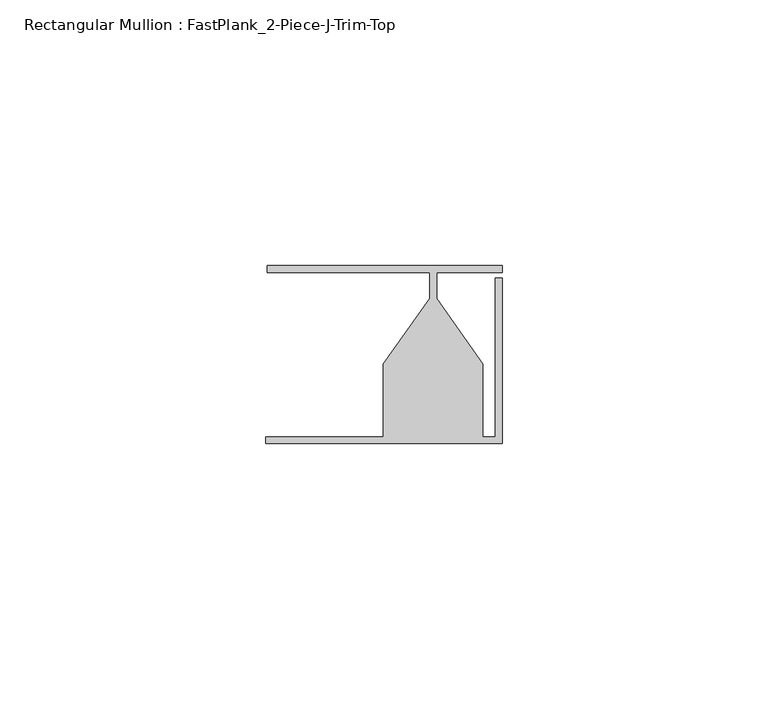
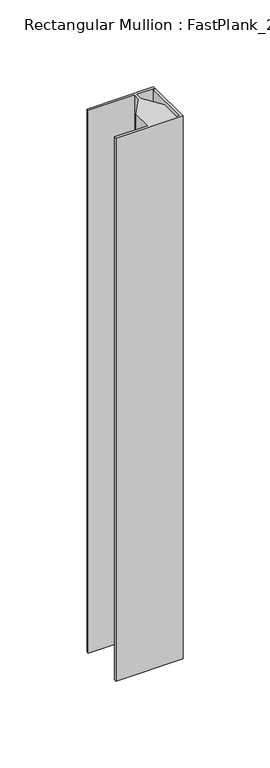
"""IFC4 building model written with IfcOpenShell, lengths in millimetres: member geometry, Rectangular Mullion : FastPlank_2-Piece-J-Trim-Top."""

from ifc_helpers import new_model, si_unit, frame, origin, place, context, project, spatial, polyline, outline, extrude, source, transform, mapped, element, save


def rectangular_mullion_fastplank_2_piece_j_trim_top_f27fafb0(model_context):
    return source(origin(), model_context, "Body", "SweptSolid", [
        extrude(outline(polyline([(0.0, 11.8625052), (0.0, 10.5618154), (-12.3176464, 10.5618154), (-12.3176464, 5.7038113), (-3.6053348, -6.6543757), (-3.6053348, -20.3381228), (-1.2999974, -20.3381228), (-1.2999974, 9.5619969), (0.0, 9.5619969), (0.0, -21.6381202), (-44.4475015, -21.6381202), (-44.4475015, -20.3381228), (-22.3299553, -20.3381228), (-22.3299553, -6.6543757), (-13.6176438, 5.7038113), (-13.6176438, 10.5618154), (-44.2023711, 10.5618154), (-44.2023711, 11.8625052), (0.0, 11.8625052)])), frame((0.0, 0.0, -381.0), z_axis=(0.0, 0.0, 1.0), x_axis=(1.0, 0.0, 0.0)), (0.0, 0.0, 1.0), 381.0),
    ])


if __name__ == "__main__":
    model = new_model("IFC4")
    model_context = context("Model", 3, world=origin())
    ifc_project = project(units=[si_unit("LENGTHUNIT", "METRE", prefix="MILLI")], contexts=[model_context])
    site = spatial("IfcSite", under=ifc_project)
    building = spatial("IfcBuilding", under=site)
    placement = place(None, origin())
    rectangular_mullion_fastplank_2_piece_j_trim_top_shape = rectangular_mullion_fastplank_2_piece_j_trim_top_f27fafb0(model_context)
    element("IfcMember", 1, ObjectType="Rectangular Mullion : FastPlank_2-Piece-J-Trim-Top", at=placement, inside=building, context=model_context, shape_type="MappedRepresentation", body=[
        mapped(rectangular_mullion_fastplank_2_piece_j_trim_top_shape, transform((0.0, 0.0, 0.0), x_axis=(1.0, 0.0, 0.0), y_axis=(0.0, 1.0, 0.0), z_axis=(0.0, 0.0, 1.0))),
    ])
    save(model, "model.ifc")
